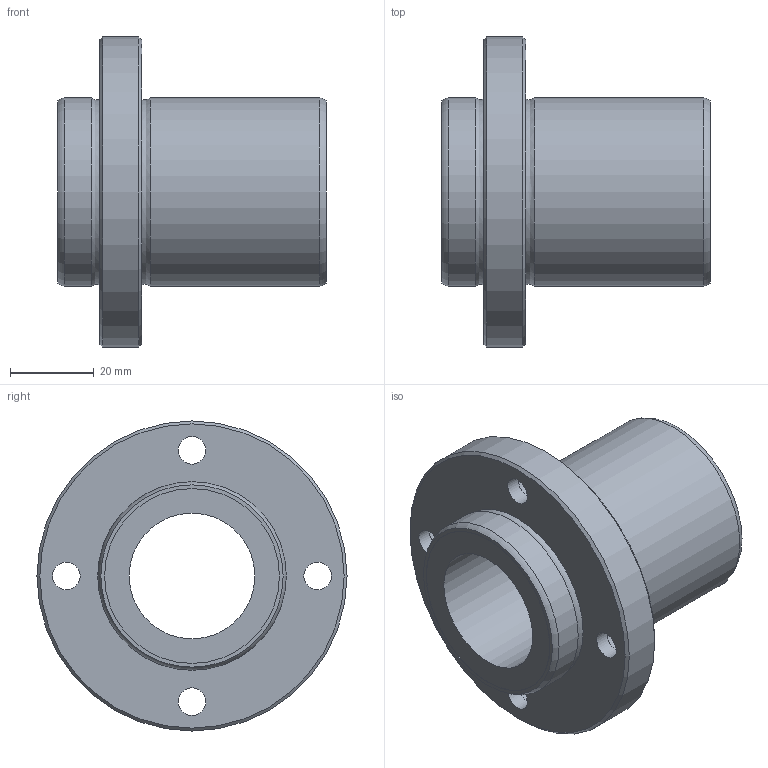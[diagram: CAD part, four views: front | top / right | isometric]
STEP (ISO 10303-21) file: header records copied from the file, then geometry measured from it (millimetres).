
FILE_DESCRIPTION((''),'2;1');
FILE_NAME('D:\製品 (図面)\カタログ用3D\リニアベアリング関連\STEP形式\LFB\LFB30.stp','2010-06-03T09:18:15',('Tsuchiya'),(''),'Autodesk Inventor 10','Autodesk Inventor 10','');
FILE_SCHEMA(('AUTOMOTIVE_DESIGN { 1 0 10303 214 1 1 1 1 }'));
Length unit declared in the file: millimetre
Products named in the file (1): LFB30
Bounding box: 64 x 74 x 74 mm (x, y, z)
Volume: 80109 mm3; surface area: 23880.4 mm2
Topology: 1 solids, 1 shells, 30 faces, 54 edges, 34 vertices
Faces by surface type: bspline 14, cylinder 6, plane 6, cone 2, torus 2
Full cylindrical faces by diameter (mm): 30 x1, 41.7 x2, 45 x2, 74 x1
Entity records: 907 total; most frequent: CARTESIAN_POINT 371, DIRECTION 102, ORIENTED_EDGE 68, EDGE_LOOP 68, AXIS2_PLACEMENT_3D 51, FACE_BOUND 38, VERTEX_POINT 34, CIRCLE 34
